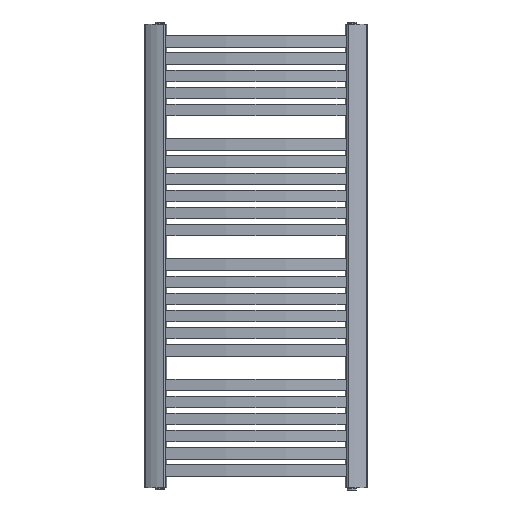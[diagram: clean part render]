
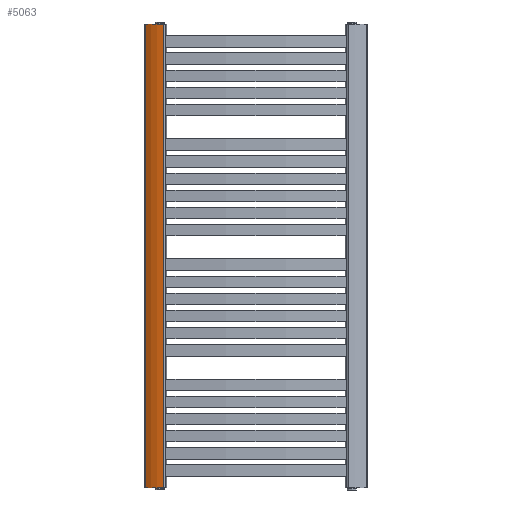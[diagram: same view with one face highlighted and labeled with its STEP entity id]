
A CAD part, left-side view. The second image highlights one B-rep face of the part: STEP entity #5063.
In plain terms, the highlighted cylindrical face has radius 101.419 mm (diameter 202.839 mm), a partial arc.
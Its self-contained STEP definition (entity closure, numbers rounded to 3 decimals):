
#339=CYLINDRICAL_SURFACE('',#5574,101.419);
#556=CIRCLE('',#5575,101.419);
#557=CIRCLE('',#5576,101.419);
#810=FACE_OUTER_BOUND('',#1087,.T.);
#1087=EDGE_LOOP('',(#4359,#4360,#4361,#4362));
#1579=LINE('',#8494,#2047);
#1585=LINE('',#8521,#2053);
#2047=VECTOR('',#6946,10.);
#2053=VECTOR('',#6978,10.);
#2509=VERTEX_POINT('',#8487);
#2512=VERTEX_POINT('',#8492);
#2519=VERTEX_POINT('',#8517);
#2520=VERTEX_POINT('',#8519);
#3196=EDGE_CURVE('',#2509,#2512,#1579,.T.);
#3208=EDGE_CURVE('',#2519,#2509,#556,.T.);
#3209=EDGE_CURVE('',#2520,#2512,#557,.T.);
#3210=EDGE_CURVE('',#2519,#2520,#1585,.T.);
#4359=ORIENTED_EDGE('',*,*,#3208,.T.);
#4360=ORIENTED_EDGE('',*,*,#3196,.T.);
#4361=ORIENTED_EDGE('',*,*,#3209,.F.);
#4362=ORIENTED_EDGE('',*,*,#3210,.F.);
#5063=ADVANCED_FACE('',(#810),#339,.T.);
#5574=AXIS2_PLACEMENT_3D('',#8516,#6972,#6973);
#5575=AXIS2_PLACEMENT_3D('',#8518,#6974,#6975);
#5576=AXIS2_PLACEMENT_3D('',#8520,#6976,#6977);
#6946=DIRECTION('',(0.,0.,1.));
#6972=DIRECTION('center_axis',(0.,0.,1.));
#6973=DIRECTION('ref_axis',(1.,-0.015,0.));
#6974=DIRECTION('center_axis',(0.,0.,1.));
#6975=DIRECTION('ref_axis',(1.,-0.015,0.));
#6976=DIRECTION('center_axis',(0.,0.,1.));
#6977=DIRECTION('ref_axis',(1.,-0.015,0.));
#6978=DIRECTION('',(0.,0.,1.));
#8487=CARTESIAN_POINT('',(5.308,22.798,0.));
#8492=CARTESIAN_POINT('',(5.308,22.798,1215.));
#8494=CARTESIAN_POINT('',(5.308,22.798,0.));
#8516=CARTESIAN_POINT('Origin',(-84.408,-24.499,0.));
#8517=CARTESIAN_POINT('',(17.,-26.062,0.));
#8518=CARTESIAN_POINT('Origin',(-84.408,-24.499,0.));
#8519=CARTESIAN_POINT('',(17.,-26.062,1215.));
#8520=CARTESIAN_POINT('Origin',(-84.408,-24.499,1215.));
#8521=CARTESIAN_POINT('',(17.,-26.062,0.));
